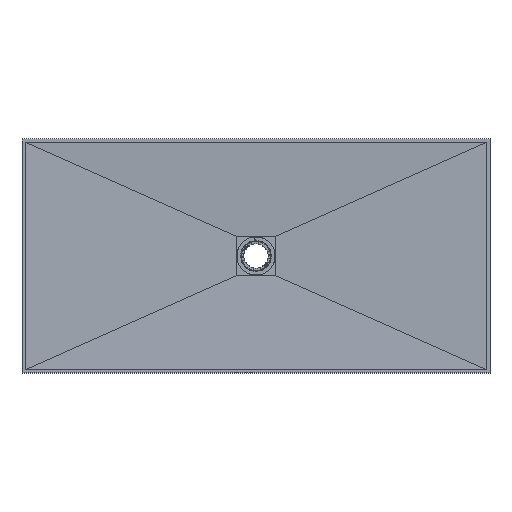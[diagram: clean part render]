
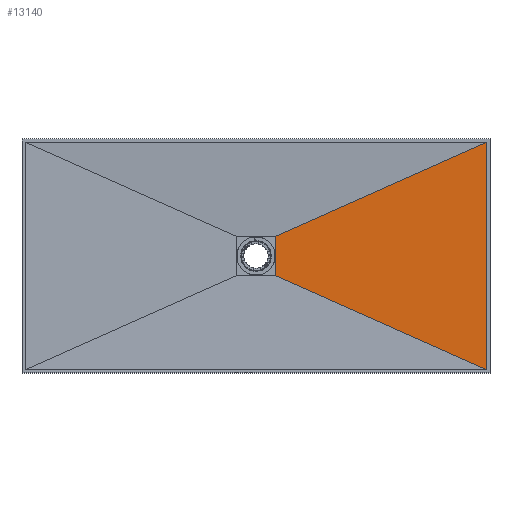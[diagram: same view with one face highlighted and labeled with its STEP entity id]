
A CAD part, top view. The second image highlights one B-rep face of the part: STEP entity #13140.
In plain terms, the highlighted planar face has unit normal (-0.021, 0, 1).
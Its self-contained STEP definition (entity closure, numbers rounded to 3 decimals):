
#2348=FACE_OUTER_BOUND('',#3093,.T.);
#3093=EDGE_LOOP('',(#8808,#8809,#8810,#8811));
#3902=LINE('',#18662,#4523);
#3908=LINE('',#18674,#4529);
#3910=LINE('',#18677,#4531);
#3911=LINE('',#18679,#4532);
#4523=VECTOR('',#15362,10.);
#4529=VECTOR('',#15370,10.);
#4531=VECTOR('',#15374,10.);
#4532=VECTOR('',#15377,10.);
#5139=VERTEX_POINT('',#18659);
#5140=VERTEX_POINT('',#18661);
#5143=VERTEX_POINT('',#18668);
#5145=VERTEX_POINT('',#18672);
#6605=EDGE_CURVE('',#5139,#5140,#3902,.F.);
#6611=EDGE_CURVE('',#5143,#5145,#3908,.F.);
#6613=EDGE_CURVE('',#5139,#5143,#3910,.T.);
#6614=EDGE_CURVE('',#5140,#5145,#3911,.T.);
#8808=ORIENTED_EDGE('',*,*,#6605,.F.);
#8809=ORIENTED_EDGE('',*,*,#6613,.T.);
#8810=ORIENTED_EDGE('',*,*,#6611,.T.);
#8811=ORIENTED_EDGE('',*,*,#6614,.F.);
#13070=PLANE('',#13978);
#13140=ADVANCED_FACE('',(#2348),#13070,.F.);
#13978=AXIS2_PLACEMENT_3D('',#18678,#15375,#15376);
#15362=DIRECTION('',(0.,1.,0.));
#15370=DIRECTION('',(0.,1.,0.));
#15374=DIRECTION('',(-0.913,-0.407,-0.019));
#15375=DIRECTION('center_axis',(0.021,0.,-1.));
#15376=DIRECTION('ref_axis',(-1.,0.,-0.021));
#15377=DIRECTION('',(-0.913,0.407,-0.019));
#18659=CARTESIAN_POINT('',(796.087,234.17,20.));
#18661=CARTESIAN_POINT('',(796.087,-654.77,20.));
#18662=CARTESIAN_POINT('',(796.087,33.35,20.));
#18668=CARTESIAN_POINT('',(-29.113,-133.83,2.5));
#18672=CARTESIAN_POINT('',(-29.113,-286.77,2.5));
#18674=CARTESIAN_POINT('',(-29.113,11.95,2.5));
#18677=CARTESIAN_POINT('',(44.246,-101.115,4.056));
#18678=CARTESIAN_POINT('Origin',(796.073,234.2,20.));
#18679=CARTESIAN_POINT('',(630.805,-581.063,16.495));
